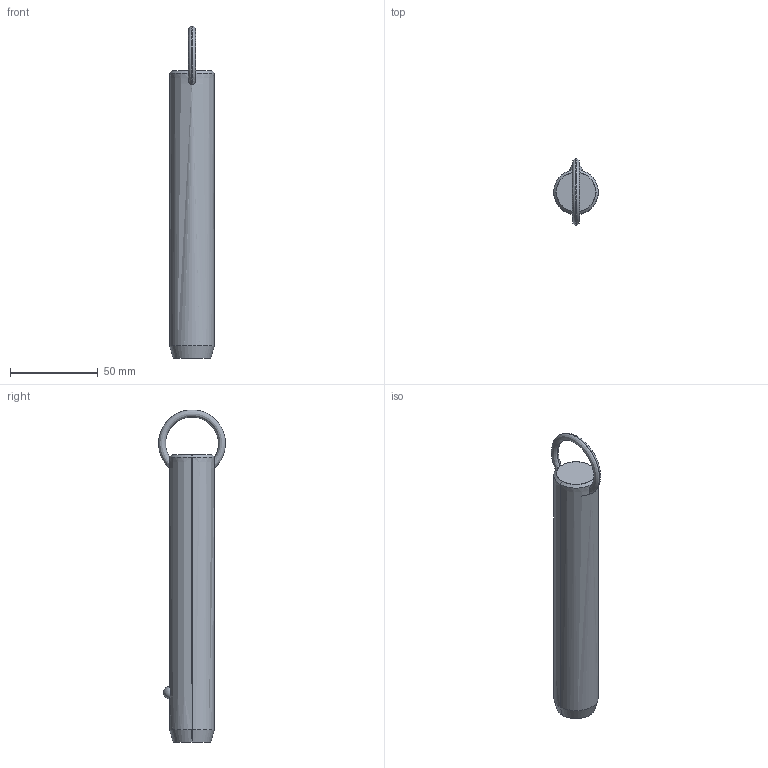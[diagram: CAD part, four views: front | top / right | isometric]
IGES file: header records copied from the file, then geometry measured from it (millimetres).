
Start section: SolidWorks IGES file using analytic representation for surfaces
Global section: file name: C:\Users\liam_\OneDrive\Documents\WORK\Work for WixRoyd\Job Files\J-00019 - Matt Davis CAD Checking\04. CAD Drawings\automotion20190605\P1250.2_v2\P1250.2_v2_20190729_IGES\P1250.100-470.igs; native system: SolidWorks 2017; preprocessor: SolidWorks 2017; author: liam_; date: 190730.174038; units: millimetre
Bounding box: 25.4 x 38.1 x 189.2 mm (x, y, z)
Surface area: 14844 mm2 (no closed solid volume)
Topology: 0 solids, 0 shells, 12 faces, 298 edges, 296 vertices
Faces by surface type: revolution 8, bspline 4
